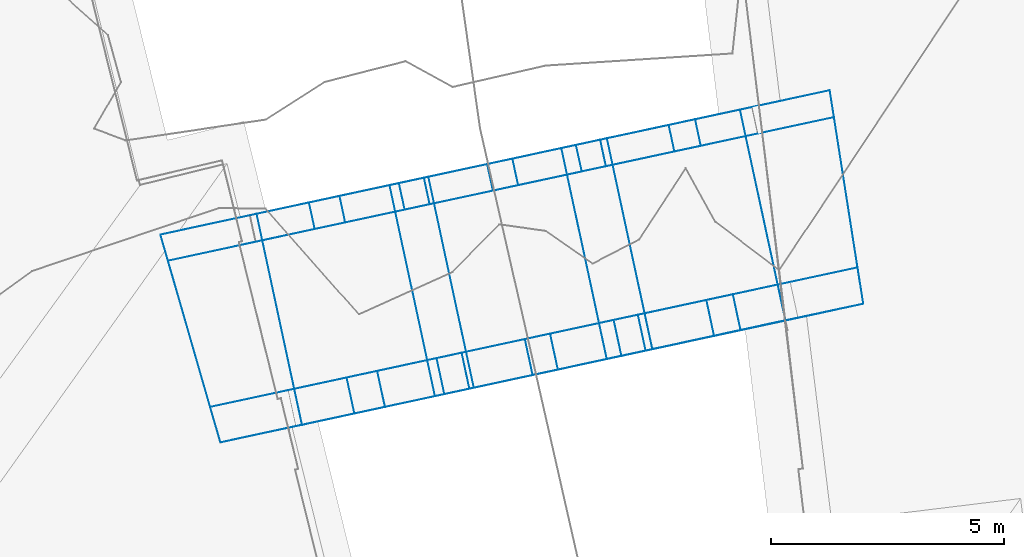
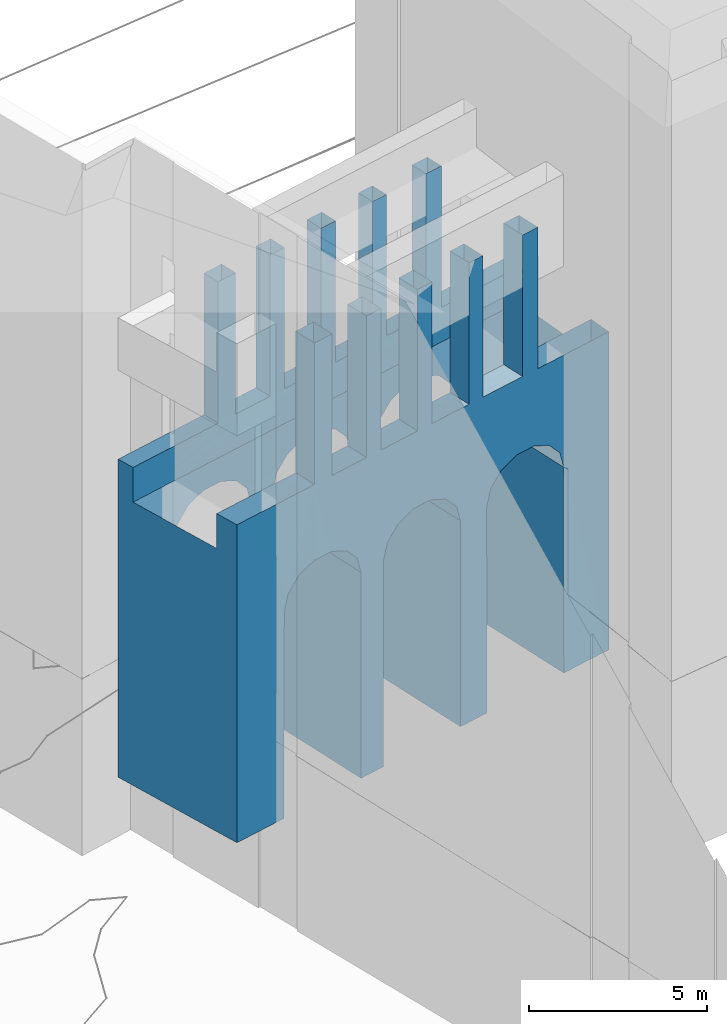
# Not in any storey, part 48 of 494: 1 wall.
"""IFC2X3 model written with IfcOpenShell, lengths in metres."""

import ifcopenshell
import ifcopenshell.guid

model = None  # the IFC model being written
_history = None  # IfcOwnerHistory: only IFC2X3 demands one
_inside = {}  # id of a spatial element -> (the spatial element, [elements in it])
_under = {}  # id of a project, library or spatial element -> (it, [spatial elements below it])
_declared = {}  # id of a project -> (the project, [libraries it declares])
_typed = {}  # id of a type object -> (the type object, [elements of that type])
_made_of = {}  # id of a material, layer set ... -> (it, [elements and type objects made of it])


def new_model(schema):
    """Start an empty IFC model of exactly this schema.

    Asked for "IFC4X3", IfcOpenShell would pick the latest addendum, in which some entities
    have other attributes; the version numbers below select the first issue.
    IFC2X3 requires an IfcOwnerHistory on every rooted entity: one is made here for all.
    """
    global model, _history
    if schema == "IFC4X3":
        model = ifcopenshell.file(schema_version=(4, 3, 0, 0))
    else:
        model = ifcopenshell.file(schema=schema)
    _inside.clear()
    _under.clear()
    _declared.clear()
    _typed.clear()
    _made_of.clear()
    _history = None
    if model.schema == "IFC2X3":
        org = make("IfcOrganization", Name="unknown")
        user = make(
            "IfcPersonAndOrganization",
            ThePerson=make("IfcPerson", FamilyName="unknown"),
            TheOrganization=org,
        )
        app = make(
            "IfcApplication",
            ApplicationDeveloper=org,
            Version="unknown",
            ApplicationFullName="unknown",
            ApplicationIdentifier="unknown",
        )
        _history = make(
            "IfcOwnerHistory",
            OwningUser=user,
            OwningApplication=app,
            ChangeAction="ADDED",
            CreationDate=0,
        )
    return model


def make(cls, **values):
    """One entity of the class cls with the attributes given. An attribute that is None is left unset."""
    return model.create_entity(
        cls, **{name: value for name, value in values.items() if value is not None}
    )


def rooted(cls, **values):
    """An entity with a GlobalId (a new one), such as an element, a storey or a relation."""
    return make(cls, GlobalId=ifcopenshell.guid.new(), OwnerHistory=_history, **values)


def si_unit(unit_type, name, prefix=None):
    """IfcSIUnit, for example si_unit("LENGTHUNIT", "METRE", prefix="MILLI")."""
    return make("IfcSIUnit", UnitType=unit_type, Prefix=prefix, Name=name)


def assignment(units):
    """IfcUnitAssignment: the units of a project."""
    return None if units is None else make("IfcUnitAssignment", Units=units)


def point(xyz):
    """IfcCartesianPoint."""
    return None if xyz is None else make("IfcCartesianPoint", Coordinates=xyz)


def direction(xyz):
    """IfcDirection."""
    return None if xyz is None else make("IfcDirection", DirectionRatios=xyz)


def frame(location, z_axis=None, x_axis=None):
    """IfcAxis2Placement3D, a coordinate frame: its origin and axes. An axis left out is left unset."""
    return make(
        "IfcAxis2Placement3D",
        Location=point(location),
        Axis=direction(z_axis),
        RefDirection=direction(x_axis),
    )


def origin_with_axes():
    """The frame at (0, 0, 0) with the z axis (0, 0, 1) and the x axis (1, 0, 0) written out."""
    return frame((0.0, 0.0, 0.0), z_axis=(0.0, 0.0, 1.0), x_axis=(1.0, 0.0, 0.0))


def place(relative_to, where):
    """IfcLocalPlacement: puts the frame where relative to a parent placement (None: the world)."""
    return make(
        "IfcLocalPlacement", PlacementRelTo=relative_to, RelativePlacement=where
    )


def context(
    kind, dimensions, precision=None, world=None, true_north=None, identifier=None
):
    """IfcGeometricRepresentationContext, for example the 3D "Model" context."""
    return make(
        "IfcGeometricRepresentationContext",
        ContextIdentifier=identifier,
        ContextType=kind,
        CoordinateSpaceDimension=dimensions,
        Precision=precision,
        WorldCoordinateSystem=world,
        TrueNorth=true_north,
    )


def subcontext(parent, identifier, kind, view, scale=None):
    """IfcGeometricRepresentationSubContext, for example "Body" below "Model"."""
    return make(
        "IfcGeometricRepresentationSubContext",
        ContextIdentifier=identifier,
        ContextType=kind,
        ParentContext=parent,
        TargetScale=scale,
        TargetView=view,
    )


def project(units=None, contexts=None):
    """IfcProject with its units and contexts."""
    return rooted(
        "IfcProject",
        Name="project",
        RepresentationContexts=contexts,
        UnitsInContext=assignment(units),
    )


def faces_of(points, faces, orient=None, outer=None):
    """IfcFace entities. A face is a list of loops; a loop is a list of indices into points, from 0.

    orient and outer hold one flag for each loop. By default every Orientation is true, the
    first loop of a face is its IfcFaceOuterBound and the others are IfcFaceBound.
    """
    made = []
    for i, loops in enumerate(faces):
        bounds = []
        for j, loop in enumerate(loops):
            is_outer = j == 0 if outer is None else outer[i][j]
            bounds.append(
                make(
                    "IfcFaceOuterBound" if is_outer else "IfcFaceBound",
                    Bound=make("IfcPolyLoop", Polygon=[points[k] for k in loop]),
                    Orientation=True if orient is None else orient[i][j],
                )
            )
        made.append(make("IfcFace", Bounds=bounds))
    return made


def faceted_brep(points, faces, orient=None, outer=None, voids=None):
    """IfcFacetedBrep: a solid bounded by flat faces; with voids (closed shells), ...WithVoids."""
    shared = [point(p) for p in points]
    hull = make("IfcClosedShell", CfsFaces=faces_of(shared, faces, orient, outer))
    if voids is None:
        return make("IfcFacetedBrep", Outer=hull)
    return make(
        "IfcFacetedBrepWithVoids",
        Outer=hull,
        Voids=[
            make(cls, CfsFaces=faces_of(shared, fs, o, b)) for cls, fs, o, b in voids
        ],
    )


def shape(context_of_items, identifier, shape_type, items):
    """IfcShapeRepresentation: the items that make up one representation, for example the "Body"."""
    return make(
        "IfcShapeRepresentation",
        ContextOfItems=context_of_items,
        RepresentationIdentifier=identifier,
        RepresentationType=shape_type,
        Items=items,
    )


def made_of(thing, what):
    """Note that an element or type object is made of a material, layer set ...; save() writes the relation."""
    if what is not None:
        _made_of.setdefault(what.id(), (what, []))[1].append(thing)
    return thing


def element(
    cls,
    number,
    at=None,
    inside=None,
    cuts=None,
    type_object=None,
    material=None,
    context=None,
    identifier="Body",
    shape_type=None,
    held_by="IfcProductDefinitionShape",
    body=None,
    shapes=None,
    **own,
):
    """One element of the class cls, such as IfcWall. Its Tag is "e" and its number.

    at: its placement. inside: the storey or other place that contains it. cuts: it is an
    opening in that element (IfcRelVoidsElement). A single representation is given by context,
    identifier, shape_type and body (its items); several are given by shapes. held_by: the class
    of the entity that holds the representations. save() writes the other relations.
    """
    e = rooted(cls, Tag="e%d" % number, ObjectPlacement=at, **own)
    if body is not None:
        shapes = [shape(context, identifier, shape_type, body)]
    if shapes is not None:
        e.Representation = make(held_by, Representations=shapes)
    if inside is not None:
        _inside.setdefault(inside.id(), (inside, []))[1].append(e)
    if cuts is not None:
        rooted(
            "IfcRelVoidsElement", RelatingBuildingElement=cuts, RelatedOpeningElement=e
        )
    if type_object is not None:
        _typed.setdefault(type_object.id(), (type_object, []))[1].append(e)
    return made_of(e, material)


def aggregate(whole, parts):
    """IfcRelAggregates: a whole, such as a stair, and the parts it consists of."""
    return rooted("IfcRelAggregates", RelatingObject=whole, RelatedObjects=parts)


def save(model, path):
    """Write the relations noted so far, then the file.

    IfcRelAggregates (storeys below a building ...), IfcRelContainedInSpatialStructure (elements
    in a storey), IfcRelDefinesByType, IfcRelAssociatesMaterial and IfcRelDeclares: one each for
    every whole, place, type object, material and project.
    """
    for whole, parts in _under.values():
        aggregate(whole, parts)
    for where, things in _inside.values():
        rooted(
            "IfcRelContainedInSpatialStructure",
            RelatedElements=things,
            RelatingStructure=where,
        )
    for kind, things in _typed.values():
        rooted("IfcRelDefinesByType", RelatedObjects=things, RelatingType=kind)
    for what, things in _made_of.values():
        rooted("IfcRelAssociatesMaterial", RelatedObjects=things, RelatingMaterial=what)
    for by, libraries in _declared.values():
        rooted("IfcRelDeclares", RelatingContext=by, RelatedDefinitions=libraries)
    model.write(path)


model = new_model("IFC2X3")

# Units and contexts
model_context = context("Model", 3, precision=1e-05, world=origin_with_axes())
body_context = subcontext(model_context, "Body", "Model", "MODEL_VIEW")
ifc_project = project(units=[si_unit("AREAUNIT", "SQUARE_METRE"), si_unit("LENGTHUNIT", "METRE")], contexts=[model_context])

# Wall
wall_placement = place(None, frame((211.8297320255, 101.9383160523, 526.7541), z_axis=(0.0, 0.0, 1.0), x_axis=(1.0, 0.0, 0.0)))
element("IfcWall", 1, at=wall_placement, Name="Wall 24", context=body_context, shape_type="Brep", body=[
    faceted_brep([(286.6060000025, 297.7441000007, 29.1525), (286.4840000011, 298.3115000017, 29.1525), (286.6060000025, 297.7441000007, 24.302), (287.0490000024, 298.433600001, 29.1525), (287.1720000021, 297.8662, 24.302), (287.0490000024, 298.433600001, 24.302), (280.8269999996, 296.4990000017, 29.1525), (280.7039999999, 297.0654000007, 24.302), (280.8269999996, 296.4990000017, 24.302), (281.2400000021, 297.1816000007, 29.1525), (281.3619999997, 296.6152000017, 29.1525), (281.2400000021, 297.1816000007, 24.302), (284.6220000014, 297.317400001, 29.1525), (284.4970000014, 297.8838, 29.1525), (284.6220000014, 297.317400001, 24.302), (285.0160000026, 297.995099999, 29.1525), (285.1380000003, 297.4287, 29.1525), (285.0160000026, 297.995099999, 24.302), (278.9000000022, 296.0839999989, 29.1525), (278.7770000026, 296.6513999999, 24.302), (278.9000000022, 296.0839999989, 24.302), (279.4310000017, 296.7919999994, 29.1525), (279.5540000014, 296.2245999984, 24.302), (279.4310000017, 296.7919999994, 24.302), (282.7180000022, 296.9061999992, 29.1525), (282.5950000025, 297.4736000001, 29.1525), (282.7180000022, 296.9061999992, 24.302), (283.1359999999, 297.5898000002, 29.1525), (283.2580000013, 297.0234000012, 24.302), (283.1359999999, 297.5898000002, 24.302), (283.569000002, 292.9560000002, 29.1525), (283.4030000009, 293.7245999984, 29.1525), (283.569000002, 292.9550999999, 24.302), (283.943, 293.8418000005, 29.1525), (284.1090000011, 293.0722000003, 29.1525), (283.943, 293.8418000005, 24.302), (279.751000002, 292.1328000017, 29.1525), (279.5840000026, 292.9023000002, 29.1525), (279.751000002, 292.1328000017, 24.302), (280.2390000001, 293.0430000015, 29.1525), (280.4050000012, 292.2743999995, 29.1525), (280.2390000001, 293.0430000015, 24.302), (285.4720000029, 293.3662, 29.1525), (285.3049999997, 294.1347000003, 29.1525), (285.4720000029, 293.3652000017, 24.302), (285.8230000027, 294.246100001, 29.1525), (285.9890000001, 293.4765000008, 24.302), (285.8230000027, 294.246100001, 24.302), (287.4560000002, 293.7930000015, 29.1525), (287.2910000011, 294.5625, 29.1525), (287.4560000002, 293.7930000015, 24.302), (287.8580000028, 294.6845999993, 29.1525), (288.0230000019, 293.9149999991, 24.302), (287.8580000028, 294.6854999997, 24.302), (281.6770000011, 292.5478000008, 29.1525), (281.5109999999, 293.316399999, 29.1525), (281.6770000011, 292.5478000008, 24.302), (282.0480000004, 293.432599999, 29.1525), (282.2129999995, 292.6631000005, 24.302), (282.0480000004, 293.433600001, 24.302), (287.1720000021, 297.8652000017, 29.1525), (290.0230000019, 298.4803999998, 23.1101), (290.0219999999, 298.4805000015, 24.302), (285.1380000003, 297.4277000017, 24.302), (283.2580000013, 297.0223999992, 29.1525), (279.5540000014, 296.2245999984, 29.1525), (281.3619999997, 296.6141999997, 24.302), (275.756000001, 295.4052999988, 23.1101), (275.7550000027, 295.4052999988, 24.302), (278.7770000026, 296.6513999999, 29.1525), (278.1889999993, 296.5243999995, 21.4603), (278.7609999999, 296.6484000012, 21.7082), (275.5940000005, 295.9648000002, 23.1101), (279.3949999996, 296.7842000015, 21.7082), (275.5940000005, 295.9648000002, 24.302), (279.9660000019, 296.9081999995, 21.4603), (281.8709999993, 297.3183000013, 21.4603), (282.4409999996, 297.441399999, 21.7082), (282.5950000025, 297.4736000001, 24.302), (281.4750000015, 297.2333999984, 21.0143), (277.6540000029, 296.4092000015, 20.4574), (277.7939999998, 296.4393999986, 21.0143), (275.5940000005, 295.9657999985, 13.395), (275.5940000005, 295.9648000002, 13.442), (277.6540000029, 296.4092000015, 13.395), (280.3610000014, 296.9930999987, 21.0143), (281.3340000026, 297.2021000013, 20.4574), (281.3340000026, 297.2021000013, 13.395), (280.5030000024, 297.0234000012, 20.4574), (283.0760000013, 297.5780999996, 21.7082), (284.4970000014, 297.8838, 24.302), (283.6469999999, 297.7012000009, 21.4603), (286.4840000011, 298.3115000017, 24.302), (286.9020000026, 298.4032999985, 21.7082), (289.932, 299.0555999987, 24.302), (289.932, 299.0555999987, 23.1101), (286.268000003, 298.2666000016, 21.7082), (285.6960000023, 298.1435000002, 21.4603), (287.4730000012, 298.5263999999, 21.4603), (284.0419999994, 297.7861000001, 21.0143), (285.3010000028, 298.058600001, 21.0143), (285.1590000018, 298.0273000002, 20.4574), (285.1590000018, 298.0273000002, 13.395), (284.1840000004, 297.817400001, 20.4574), (287.8690000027, 298.6112999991, 21.0143), (288.0100000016, 298.6425999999, 13.395), (288.0100000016, 298.6425999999, 20.4574), (289.932, 299.0555999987, 13.395), (290.5290000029, 295.2606999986, 23.1101), (290.5280000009, 295.2606999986, 24.302), (290.6510000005, 294.4814000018, 24.302), (290.6510000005, 294.4814000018, 13.395), (276.8790000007, 291.5137000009, 24.302), (276.6600000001, 292.2723999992, 24.302), (276.6600000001, 292.2723999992, 23.1101), (276.8790000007, 291.5137000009, 13.395), (276.6600000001, 292.2723999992, 13.395), (281.5109999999, 293.317400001, 24.302), (279.5840000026, 292.9023000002, 24.302), (283.4030000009, 293.7256000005, 24.302), (285.3049999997, 294.1356999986, 24.302), (287.2910000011, 294.5634999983, 24.302), (288.0230000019, 293.9149999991, 29.1525), (288.8410000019, 294.0976000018, 21.0143), (287.875, 293.8887000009, 21.7082), (286.6689999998, 293.6268999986, 21.4603), (287.2400000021, 293.7509999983, 21.7082), (288.4460000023, 294.0126999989, 21.4603), (285.9890000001, 293.4765000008, 29.1525), (284.0490000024, 293.0604999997, 21.7082), (284.1090000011, 293.0713, 24.302), (286.2740000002, 293.5419999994, 21.0143), (284.6209999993, 293.1845999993, 21.4603), (288.9830000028, 294.128899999, 20.4573), (288.9840000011, 294.1220999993, 13.395), (285.1570000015, 293.3007999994, 20.4574), (285.0150000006, 293.2694999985, 21.0143), (286.1339999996, 293.5088, 13.395), (286.1330000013, 293.5117000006, 20.4574), (285.1579999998, 293.2978000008, 13.395), (282.2129999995, 292.6631000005, 29.1525), (282.8450000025, 292.8007999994, 21.4603), (283.4160000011, 292.9237999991, 21.7082), (282.450000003, 292.7148000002, 21.0143), (280.4050000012, 292.2734000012, 24.302), (280.9409999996, 292.3887000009, 21.4603), (281.3360000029, 292.4736000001, 21.0143), (280.3690000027, 292.2646000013, 21.7082), (279.1630000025, 292.003899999, 21.4603), (279.7349999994, 292.1268999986, 21.7082), (278.7690000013, 291.9180000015, 21.0143), (281.4759999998, 292.503899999, 20.4574), (282.3080000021, 292.6845999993, 20.4574), (282.3080000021, 292.683600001, 13.395), (281.4759999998, 292.504900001, 13.395), (278.6280000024, 291.8876999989, 20.4574), (278.6270000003, 291.8905999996, 13.395), (284.1840000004, 297.817400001, 13.395), (280.7039999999, 297.066399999, 29.1525), (280.5030000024, 297.0234000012, 13.395)], [[[0, 1, 2]], [[3, 4, 5]], [[6, 7, 8]], [[9, 10, 11]], [[12, 13, 14]], [[15, 16, 17]], [[18, 19, 20]], [[21, 22, 23]], [[24, 25, 26]], [[27, 28, 29]], [[30, 31, 32]], [[33, 34, 35]], [[36, 37, 38]], [[39, 40, 41]], [[42, 43, 44]], [[45, 46, 47]], [[48, 49, 50]], [[51, 52, 53]], [[54, 55, 56]], [[57, 58, 59]], [[0, 4, 60]], [[12, 14, 16]], [[61, 4, 2]], [[4, 61, 62]], [[61, 2, 63]], [[63, 14, 61]], [[14, 28, 61]], [[61, 28, 26]], [[24, 28, 64]], [[6, 8, 10]], [[18, 22, 65]], [[66, 8, 67]], [[8, 22, 67]], [[20, 68, 67]], [[20, 67, 22]], [[66, 67, 26]], [[26, 67, 61]], [[69, 21, 19]], [[70, 19, 71]], [[19, 70, 72]], [[19, 73, 71]], [[23, 73, 19]], [[72, 74, 19]], [[7, 75, 73]], [[7, 9, 11]], [[75, 7, 76]], [[77, 76, 11]], [[77, 11, 78]], [[76, 79, 75]], [[7, 73, 23]], [[80, 72, 81]], [[82, 83, 84]], [[80, 84, 83]], [[72, 80, 83]], [[85, 79, 86]], [[86, 87, 88]], [[88, 85, 86]], [[81, 72, 70]], [[29, 78, 27]], [[29, 89, 78]], [[29, 90, 89]], [[91, 89, 90]], [[90, 13, 17]], [[3, 92, 1]], [[5, 93, 92]], [[94, 95, 5]], [[92, 96, 17]], [[90, 17, 97]], [[98, 5, 95]], [[99, 91, 100]], [[90, 97, 91]], [[100, 101, 99]], [[101, 102, 103]], [[104, 98, 95]], [[93, 5, 98]], [[105, 106, 107]], [[104, 95, 106]], [[95, 107, 106]], [[17, 96, 97]], [[62, 61, 94]], [[61, 107, 95]], [[108, 109, 110]], [[108, 111, 61]], [[111, 108, 110]], [[61, 111, 107]], [[112, 113, 114]], [[115, 114, 116]], [[114, 115, 112]], [[67, 116, 114]], [[67, 68, 74]], [[67, 74, 72]], [[83, 82, 116]], [[83, 67, 72]], [[83, 116, 67]], [[39, 41, 37]], [[57, 117, 55]], [[114, 118, 41]], [[118, 114, 113]], [[114, 41, 117]], [[117, 59, 114]], [[59, 119, 114]], [[114, 119, 108]], [[33, 119, 31]], [[45, 120, 43]], [[51, 53, 49]], [[120, 47, 108]], [[47, 121, 108]], [[53, 109, 108]], [[53, 108, 121]], [[120, 108, 35]], [[48, 50, 122]], [[110, 52, 123]], [[50, 124, 52]], [[50, 125, 126]], [[127, 52, 124]], [[42, 44, 128]], [[125, 50, 46]], [[129, 130, 32]], [[30, 130, 34]], [[131, 46, 44]], [[132, 44, 130]], [[127, 123, 52]], [[111, 133, 134]], [[133, 111, 110]], [[46, 131, 125]], [[123, 133, 110]], [[135, 131, 136]], [[44, 132, 136]], [[137, 138, 135]], [[135, 139, 137]], [[131, 135, 138]], [[131, 44, 136]], [[129, 132, 130]], [[130, 30, 32]], [[54, 56, 140]], [[58, 141, 32]], [[32, 141, 142]], [[58, 56, 143]], [[144, 145, 56]], [[145, 146, 56]], [[32, 142, 129]], [[36, 144, 40]], [[144, 147, 145]], [[38, 147, 144]], [[148, 149, 38]], [[38, 112, 150]], [[143, 146, 151]], [[143, 141, 58]], [[143, 151, 152]], [[153, 152, 151]], [[151, 154, 153]], [[143, 56, 146]], [[148, 38, 150]], [[155, 115, 156]], [[115, 155, 112]], [[150, 112, 155]], [[101, 138, 102]], [[105, 133, 106]], [[151, 88, 154]], [[156, 80, 155]], [[86, 152, 87]], [[157, 135, 103]], [[1, 92, 2]], [[60, 4, 3]], [[158, 7, 6]], [[10, 66, 11]], [[13, 90, 14]], [[16, 63, 17]], [[69, 19, 18]], [[65, 22, 21]], [[25, 78, 26]], [[64, 28, 27]], [[31, 119, 32]], [[34, 130, 35]], [[37, 118, 38]], [[40, 144, 41]], [[43, 120, 44]], [[128, 46, 45]], [[49, 121, 50]], [[122, 52, 51]], [[55, 117, 56]], [[140, 58, 57]], [[2, 4, 0]], [[14, 63, 16]], [[26, 28, 24]], [[8, 66, 10]], [[20, 22, 18]], [[21, 23, 19]], [[158, 9, 7]], [[7, 11, 76]], [[79, 85, 75]], [[87, 159, 88]], [[78, 25, 27]], [[89, 77, 78]], [[13, 15, 17]], [[5, 92, 3]], [[93, 96, 92]], [[91, 97, 100]], [[101, 103, 99]], [[102, 157, 103]], [[61, 95, 94]], [[41, 118, 37]], [[59, 117, 57]], [[119, 35, 108]], [[35, 119, 33]], [[47, 120, 45]], [[53, 121, 49]], [[50, 52, 122]], [[126, 124, 50]], [[44, 46, 128]], [[56, 58, 140]], [[38, 144, 36]], [[149, 147, 38]], [[138, 137, 102]], [[134, 133, 105]], [[88, 159, 154]], [[84, 80, 156]], [[152, 153, 87]], [[139, 135, 157]]]),
])

save(model, "model.ifc")
